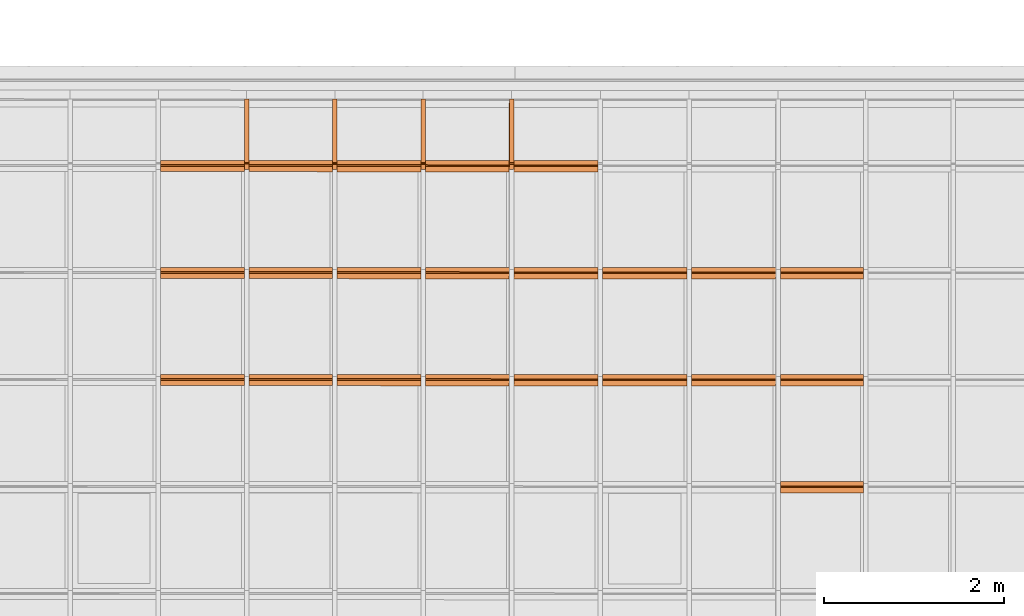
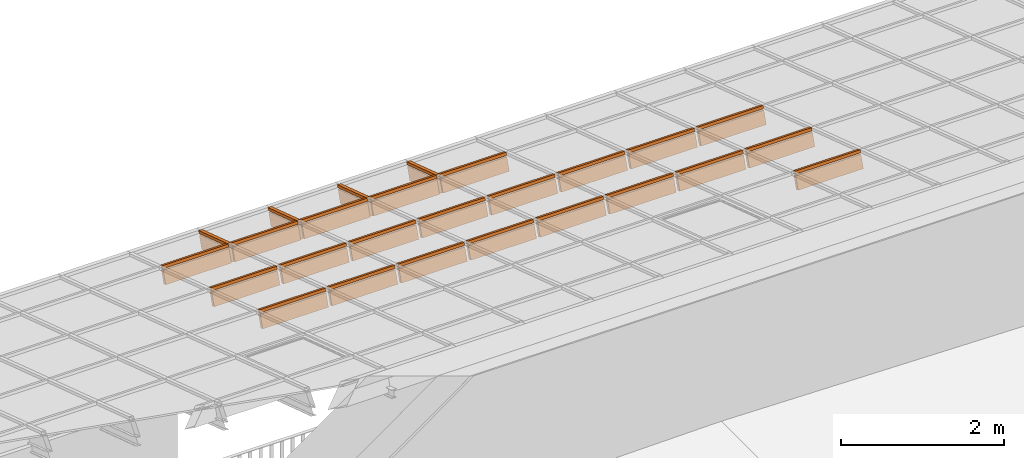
# One storey, part 44 of 47: 26 proxies, 1 element without a shape of its own.
"""IFC2X3 building model written with IfcOpenShell, lengths in millimetres."""

from ifc_helpers import new_model, entity, si_unit, converted_unit, derived_unit, money_unit, direction, frame, origin_with_axes, place, context, subcontext, project, spatial, polyline, outline, extrude, material, material_list, type_object, element, aggregate, save


model = new_model("IFC2X3")

# Units and contexts
model_context = context("Model", 3, precision=1e-05, world=origin_with_axes(), true_north=direction((0.0, 1.0)))
body_context = subcontext(model_context, "Body", "Model", "MODEL_VIEW")
ifc_project = project(units=[si_unit("LENGTHUNIT", "METRE", prefix="MILLI"), si_unit("AREAUNIT", "SQUARE_METRE"), si_unit("VOLUMEUNIT", "CUBIC_METRE"), converted_unit("PLANEANGLEUNIT", "DEGREE", entity("IfcPlaneAngleMeasure", 0.0174532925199), si_unit("PLANEANGLEUNIT", "RADIAN"), dimensions=[0, 0, 0, 0, 0, 0, 0]), si_unit("SOLIDANGLEUNIT", "STERADIAN"), money_unit("EUR"), converted_unit("TIMEUNIT", "Year", entity("IfcTimeMeasure", 31556926.0), si_unit("TIMEUNIT", "SECOND"), dimensions=[0, 0, 1, 0, 0, 0, 0]), si_unit("MASSUNIT", "GRAM", prefix="KILO"), si_unit("THERMODYNAMICTEMPERATUREUNIT", "DEGREE_CELSIUS"), si_unit("LUMINOUSINTENSITYUNIT", "LUMEN"), si_unit("ENERGYUNIT", "JOULE", prefix="MEGA"), derived_unit("THERMALCONDUCTANCEUNIT", [(si_unit("POWERUNIT", "WATT"), 1), (si_unit("LENGTHUNIT", "METRE"), -1), (si_unit("THERMODYNAMICTEMPERATUREUNIT", "KELVIN"), -1)]), derived_unit("SPECIFICHEATCAPACITYUNIT", [(si_unit("ENERGYUNIT", "JOULE"), 1), (si_unit("MASSUNIT", "GRAM", prefix="KILO"), -1), (si_unit("THERMODYNAMICTEMPERATUREUNIT", "KELVIN"), -1)]), derived_unit("MASSDENSITYUNIT", [(si_unit("MASSUNIT", "GRAM", prefix="KILO"), 1), (si_unit("VOLUMEUNIT", "CUBIC_METRE"), -1)])], contexts=[model_context])

# Site, building, storey
site_placement = place(None, origin_with_axes())
site = spatial("IfcSite", under=ifc_project, at=site_placement, Name="Site", CompositionType="ELEMENT")
building_placement = place(site_placement, origin_with_axes())
building = spatial("IfcBuilding", under=site, at=building_placement, Name="Building", CompositionType="ELEMENT")
storey_placement = place(building_placement, frame((0.0, 0.0, 6000.0), z_axis=(0.0, 0.0, 1.0), x_axis=(1.0, 0.0, 0.0)))
storey = spatial("IfcBuildingStorey", under=building, at=storey_placement, Name="KATUSEPLAAN", CompositionType="ELEMENT", Elevation=6000.0)

# Curtain wall, proxies
curtain_wall_type = type_object("IfcCurtainWallType", Name="KK-2", PredefinedType="NOTDEFINED")
curtain_wall_placement = place(storey_placement, frame((71638.1505463, 41358.6055567, 722.550081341), z_axis=(0.0, 0.0, 1.0), x_axis=(1.0, 0.0, 0.0)))
curtain_wall = element("IfcCurtainWall", 1, at=curtain_wall_placement, inside=storey, type_object=curtain_wall_type, Name="Talveaja klaaskatus")
ifc_material = material(Name="Alumiinium (1)")
ifc_material_list = material_list([ifc_material, ifc_material])
building_element_proxy_type_1 = type_object("IfcBuildingElementProxyType", Name="Frame-Mll-202", PredefinedType="NOTDEFINED")
proxy_1_placement = place(curtain_wall_placement, frame((1469.99937703, 5981.3694431, 12.8754077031), z_axis=(0.0, -0.950019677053, 0.312190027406), x_axis=(-0.999999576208, 0.000287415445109, 0.000874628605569)))
proxy_1 = element("IfcBuildingElementProxy", 2, at=proxy_1_placement, type_object=building_element_proxy_type_1, material=ifc_material_list, Name="Alumiinium (1);  Objekti nimi: Frame 22", context=body_context, shape_type="SweptSolid", body=[
    extrude(outline(polyline([(25.0091958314, 9.9769796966), (25.1841179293, 199.976899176), (-24.8158608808, 200.022931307), (-24.9907829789, 10.0230118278), (25.0091958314, 9.9769796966)])), frame((-1.13686837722e-10, 0.0, 49.9999999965), z_axis=(0.0, 0.0, 1.0), x_axis=(0.999999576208, 0.00092064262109, 0.0)), (0.0, 0.0, 1.0), 744.739022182),
    extrude(outline(polyline([(-25.0091958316, -9.97697969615), (-25.0460215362, -49.9769627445), (24.9539572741, -50.0229948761), (24.990782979, -10.0230118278), (-25.0091958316, -9.97697969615)])), frame((-1.13686837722e-10, 0.0, 49.9999999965), z_axis=(0.0, 0.0, 1.0), x_axis=(0.999999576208, 0.00092064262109, 0.0)), (0.0, 0.0, 1.0), 744.739022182),
])
building_element_proxy_type_2 = type_object("IfcBuildingElementProxyType", Name="Frame-Mll-203", PredefinedType="NOTDEFINED")
proxy_2_placement = place(curtain_wall_placement, frame((2449.99896171, 5981.08777596, 12.0182716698), z_axis=(0.0, -0.950019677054, 0.312190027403), x_axis=(-0.999999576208, 0.000287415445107, 0.00087462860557)))
proxy_2 = element("IfcBuildingElementProxy", 3, at=proxy_2_placement, type_object=building_element_proxy_type_2, material=ifc_material_list, Name="Alumiinium (1);  Objekti nimi: Frame 22", context=body_context, shape_type="SweptSolid", body=[
    extrude(outline(polyline([(25.0091958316, 9.9769796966), (25.1841179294, 199.976899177), (-24.8158608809, 200.022931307), (-24.990782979, 10.0230118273), (25.0091958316, 9.9769796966)])), frame((0.0, 0.0, 49.9999999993), z_axis=(0.0, 0.0, 1.0), x_axis=(0.999999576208, 0.00092064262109, 0.0)), (0.0, 0.0, 1.0), 744.739022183),
    extrude(outline(polyline([(-25.0091958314, -9.97697969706), (-25.0460215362, -49.9769627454), (24.9539572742, -50.0229948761), (24.9907829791, -10.0230118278), (-25.0091958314, -9.97697969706)])), frame((0.0, 0.0, 49.9999999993), z_axis=(0.0, 0.0, 1.0), x_axis=(0.999999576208, 0.00092064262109, 0.0)), (0.0, 0.0, 1.0), 744.739022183),
])
building_element_proxy_type_3 = type_object("IfcBuildingElementProxyType", Name="Frame-Mll-204", PredefinedType="NOTDEFINED")
proxy_3_placement = place(curtain_wall_placement, frame((3429.9985464, 5980.80610883, 11.1611356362), z_axis=(0.0, -0.950019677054, 0.312190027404), x_axis=(-0.999999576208, 0.000287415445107, 0.00087462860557)))
proxy_3 = element("IfcBuildingElementProxy", 4, at=proxy_3_placement, type_object=building_element_proxy_type_3, material=ifc_material_list, Name="Alumiinium (1);  Objekti nimi: Frame 22", context=body_context, shape_type="SweptSolid", body=[
    extrude(outline(polyline([(25.0091958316, 9.97697969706), (25.1841179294, 199.976899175), (-24.8158608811, 200.022931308), (-24.9907829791, 10.0230118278), (25.0091958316, 9.97697969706)])), frame((0.0, -4.54747350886e-10, 49.9999999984), z_axis=(0.0, 0.0, 1.0), x_axis=(0.999999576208, 0.00092064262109, 0.0)), (0.0, 0.0, 1.0), 744.739022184),
    extrude(outline(polyline([(-25.0091958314, -9.97697969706), (-25.0460215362, -49.9769627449), (24.9539572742, -50.0229948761), (24.990782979, -10.0230118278), (-25.0091958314, -9.97697969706)])), frame((0.0, 0.0, 49.9999999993), z_axis=(0.0, 0.0, 1.0), x_axis=(0.999999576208, 0.00092064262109, 0.0)), (0.0, 0.0, 1.0), 744.739022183),
])
building_element_proxy_type_4 = type_object("IfcBuildingElementProxyType", Name="Frame-Mll-205", PredefinedType="NOTDEFINED")
proxy_4_placement = place(curtain_wall_placement, frame((4409.99813108, 5980.52444169, 10.3039996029), z_axis=(0.0, -0.950019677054, 0.312190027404), x_axis=(-0.999999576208, 0.000287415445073, 0.000874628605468)))
proxy_4 = element("IfcBuildingElementProxy", 5, at=proxy_4_placement, type_object=building_element_proxy_type_4, material=ifc_material_list, Name="Alumiinium (1);  Objekti nimi: Frame 22", context=body_context, shape_type="SweptSolid", body=[
    extrude(outline(polyline([(25.0091958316, 9.97697969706), (25.1841179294, 199.976899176), (-24.8158608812, 200.022931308), (-24.9907829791, 10.0230118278), (25.0091958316, 9.97697969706)])), frame((0.0, 0.0, 50.0000000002), z_axis=(0.0, 0.0, 1.0), x_axis=(0.999999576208, 0.000920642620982, 0.0)), (0.0, 0.0, 1.0), 744.739022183),
    extrude(outline(polyline([(-25.0091958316, -9.97697969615), (-25.0460215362, -49.9769627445), (24.9539572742, -50.0229948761), (24.9907829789, -10.0230118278), (-25.0091958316, -9.97697969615)])), frame((0.0, 0.0, 50.0000000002), z_axis=(0.0, 0.0, 1.0), x_axis=(0.999999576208, 0.000920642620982, 0.0)), (0.0, 0.0, 1.0), 744.739022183),
])
building_element_proxy_type_5 = type_object("IfcBuildingElementProxyType", Name="Frame-Trs-179", PredefinedType="NOTDEFINED")
proxy_5_placement = place(curtain_wall_placement, frame((489.999792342, 5226.63340104, 261.84214085), z_axis=(0.999999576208, -0.000287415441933, -0.000874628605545), x_axis=(0.0, -0.950019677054, 0.312190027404)))
proxy_5 = element("IfcBuildingElementProxy", 6, at=proxy_5_placement, type_object=building_element_proxy_type_5, material=ifc_material_list, Name="Alumiinium (1);  Objekti nimi: Frame 22", context=body_context, shape_type="SweptSolid", body=[
    extrude(outline(polyline([(26.8723924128, 1.695442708), (86.1885203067, 182.199173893), (38.6875384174, 197.808681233), (-20.6285894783, 17.3049500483), (26.8723924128, 1.695442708)])), frame((0.0, 0.0, 24.9999999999), z_axis=(0.0, 0.0, 1.0), x_axis=(0.950019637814, 0.312190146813, 0.0)), (0.0, 0.0, 1.0), 930.000000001),
    extrude(outline(polyline([(-26.8723924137, -1.69544270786), (-39.3599982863, -39.6962282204), (8.14098360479, -55.3057355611), (20.6285894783, -17.3049500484), (-26.8723924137, -1.69544270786)])), frame((0.0, 0.0, 24.9999999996), z_axis=(0.0, 0.0, 1.0), x_axis=(0.950019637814, 0.312190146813, 0.0)), (0.0, 0.0, 1.0), 930.000000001),
])
building_element_proxy_type_6 = type_object("IfcBuildingElementProxyType", Name="Frame-Trs-180", PredefinedType="NOTDEFINED")
proxy_6_placement = place(curtain_wall_placement, frame((1469.99937703, 5226.35173391, 260.985004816), z_axis=(0.999999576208, -0.000287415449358, -0.000874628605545), x_axis=(0.0, -0.950019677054, 0.312190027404)))
proxy_6 = element("IfcBuildingElementProxy", 7, at=proxy_6_placement, type_object=building_element_proxy_type_6, material=ifc_material_list, Name="Alumiinium (1);  Objekti nimi: Frame 22", context=body_context, shape_type="SweptSolid", body=[
    extrude(outline(polyline([(26.8723924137, 1.69544270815), (86.1885203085, 182.199173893), (38.6875384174, 197.808681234), (-20.6285894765, 17.3049500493), (26.8723924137, 1.69544270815)])), frame((9.09494701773e-10, 0.0, 24.9999999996), z_axis=(0.0, 0.0, 1.0), x_axis=(0.950019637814, 0.312190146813, 0.0)), (0.0, 0.0, 1.0), 930.0),
    extrude(outline(polyline([(-26.8723924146, -1.69544270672), (-39.3599982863, -39.6962282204), (8.1409836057, -55.3057355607), (20.6285894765, -17.3049500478), (-26.8723924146, -1.69544270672)])), frame((9.09494701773e-10, 0.0, 24.9999999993), z_axis=(0.0, 0.0, 1.0), x_axis=(0.950019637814, 0.312190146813, 0.0)), (0.0, 0.0, 1.0), 930.000000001),
])
building_element_proxy_type_7 = type_object("IfcBuildingElementProxyType", Name="Frame-Trs-181", PredefinedType="NOTDEFINED")
proxy_7_placement = place(curtain_wall_placement, frame((2449.99896171, 5226.07006677, 260.127868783), z_axis=(0.999999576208, -0.000287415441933, -0.000874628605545), x_axis=(0.0, -0.950019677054, 0.312190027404)))
proxy_7 = element("IfcBuildingElementProxy", 8, at=proxy_7_placement, type_object=building_element_proxy_type_7, material=ifc_material_list, Name="Alumiinium (1);  Objekti nimi: Frame 22", context=body_context, shape_type="SweptSolid", body=[
    extrude(outline(polyline([(26.8723924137, 1.69544270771), (86.1885203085, 182.199173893), (38.6875384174, 197.808681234), (-20.6285894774, 17.3049500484), (26.8723924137, 1.69544270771)])), frame((0.0, 0.0, 24.9999999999), z_axis=(0.0, 0.0, 1.0), x_axis=(0.950019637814, 0.312190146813, 0.0)), (0.0, 0.0, 1.0), 930.0),
    extrude(outline(polyline([(-26.8723924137, -1.69544270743), (-39.3599982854, -39.6962282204), (8.14098360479, -55.3057355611), (20.6285894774, -17.3049500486), (-26.8723924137, -1.69544270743)])), frame((0.0, 0.0, 24.9999999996), z_axis=(0.0, 0.0, 1.0), x_axis=(0.950019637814, 0.312190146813, 0.0)), (0.0, 0.0, 1.0), 930.0),
])
building_element_proxy_type_8 = type_object("IfcBuildingElementProxyType", Name="Frame-Trs-182", PredefinedType="NOTDEFINED")
proxy_8_placement = place(curtain_wall_placement, frame((3429.9985464, 5225.78839964, 259.27073275), z_axis=(0.999999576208, -0.000287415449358, -0.000874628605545), x_axis=(0.0, -0.950019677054, 0.312190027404)))
proxy_8 = element("IfcBuildingElementProxy", 9, at=proxy_8_placement, type_object=building_element_proxy_type_8, material=ifc_material_list, Name="Alumiinium (1);  Objekti nimi: Frame 22", context=body_context, shape_type="SweptSolid", body=[
    extrude(outline(polyline([(26.8723924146, 1.69544270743), (86.1885203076, 182.199173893), (38.6875384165, 197.808681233), (-20.6285894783, 17.304950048), (26.8723924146, 1.69544270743)])), frame((0.0, 0.0, 24.9999999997), z_axis=(0.0, 0.0, 1.0), x_axis=(0.950019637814, 0.312190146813, 0.0)), (0.0, 0.0, 1.0), 930.0),
    extrude(outline(polyline([(-26.8723924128, -1.69544270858), (-39.3599982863, -39.6962282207), (8.14098360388, -55.3057355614), (20.6285894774, -17.3049500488), (-26.8723924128, -1.69544270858)])), frame((0.0, 0.0, 24.9999999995), z_axis=(0.0, 0.0, 1.0), x_axis=(0.950019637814, 0.312190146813, 0.0)), (0.0, 0.0, 1.0), 930.000000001),
])
building_element_proxy_type_9 = type_object("IfcBuildingElementProxyType", Name="Frame-Trs-183", PredefinedType="NOTDEFINED")
proxy_9_placement = place(curtain_wall_placement, frame((4409.99813108, 5225.5067325, 258.413596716), z_axis=(0.999999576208, -0.0002874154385, -0.000874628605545), x_axis=(0.0, -0.950019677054, 0.312190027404)))
proxy_9 = element("IfcBuildingElementProxy", 10, at=proxy_9_placement, type_object=building_element_proxy_type_9, material=ifc_material_list, Name="Alumiinium (1);  Objekti nimi: Frame 22", context=body_context, shape_type="SweptSolid", body=[
    extrude(outline(polyline([(26.8723924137, 1.69544270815), (86.1885203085, 182.199173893), (38.6875384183, 197.808681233), (-20.6285894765, 17.3049500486), (26.8723924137, 1.69544270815)])), frame((-9.09494701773e-10, 0.0, 25.0000000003), z_axis=(0.0, 0.0, 1.0), x_axis=(0.950019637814, 0.312190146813, 0.0)), (0.0, 0.0, 1.0), 936.0),
    extrude(outline(polyline([(-26.8723924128, -1.69544270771), (-39.3599982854, -39.6962282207), (8.1409836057, -55.3057355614), (20.6285894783, -17.3049500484), (-26.8723924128, -1.69544270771)])), frame((-9.09494701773e-10, 0.0, 25.0), z_axis=(0.0, 0.0, 1.0), x_axis=(0.950019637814, 0.312190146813, 0.0)), (0.0, 0.0, 1.0), 936.000000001),
])
building_element_proxy_type_10 = type_object("IfcBuildingElementProxyType", Name="Frame-Trs-203", PredefinedType="NOTDEFINED")
proxy_10_placement = place(curtain_wall_placement, frame((489.999792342, 4039.10880473, 652.079675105), z_axis=(0.999999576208, -0.000287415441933, -0.000874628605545), x_axis=(0.0, -0.950019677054, 0.312190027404)))
proxy_10 = element("IfcBuildingElementProxy", 11, at=proxy_10_placement, type_object=building_element_proxy_type_10, material=ifc_material_list, Name="Alumiinium (1);  Objekti nimi: Frame 22", context=body_context, shape_type="SweptSolid", body=[
    extrude(outline(polyline([(26.8723924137, 1.69544270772), (86.1885203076, 182.199173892), (38.6875384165, 197.808681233), (-20.6285894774, 17.3049500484), (26.8723924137, 1.69544270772)])), frame((9.09494701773e-10, 0.0, 24.9999999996), z_axis=(0.0, 0.0, 1.0), x_axis=(0.950019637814, 0.312190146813, 0.0)), (0.0, 0.0, 1.0), 930.000000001),
    extrude(outline(polyline([(-26.8723924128, -1.69544270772), (-39.3599982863, -39.6962282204), (8.14098360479, -55.3057355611), (20.6285894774, -17.3049500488), (-26.8723924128, -1.69544270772)])), frame((9.09494701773e-10, 0.0, 24.9999999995), z_axis=(0.0, 0.0, 1.0), x_axis=(0.950019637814, 0.312190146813, 0.0)), (0.0, 0.0, 1.0), 930.000000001),
])
building_element_proxy_type_11 = type_object("IfcBuildingElementProxyType", Name="Frame-Trs-258", PredefinedType="NOTDEFINED")
proxy_11_placement = place(curtain_wall_placement, frame((489.999792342, 2851.58420841, 1042.31720936), z_axis=(0.999999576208, -0.000287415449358, -0.000874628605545), x_axis=(0.0, -0.950019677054, 0.312190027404)))
proxy_11 = element("IfcBuildingElementProxy", 12, at=proxy_11_placement, type_object=building_element_proxy_type_11, material=ifc_material_list, Name="Alumiinium (1);  Objekti nimi: Frame 22", context=body_context, shape_type="SweptSolid", body=[
    extrude(outline(polyline([(26.8723924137, 1.69544270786), (86.1885203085, 182.199173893), (38.6875384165, 197.808681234), (-20.6285894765, 17.304950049), (26.8723924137, 1.69544270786)])), frame((0.0, 0.0, 25.0000000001), z_axis=(0.0, 0.0, 1.0), x_axis=(0.950019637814, 0.312190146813, 0.0)), (0.0, 0.0, 1.0), 930.000000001),
    extrude(outline(polyline([(-26.8723924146, -1.695442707), (-39.3599982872, -39.6962282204), (8.14098360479, -55.3057355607), (20.6285894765, -17.3049500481), (-26.8723924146, -1.695442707)])), frame((0.0, 0.0, 24.9999999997), z_axis=(0.0, 0.0, 1.0), x_axis=(0.950019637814, 0.312190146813, 0.0)), (0.0, 0.0, 1.0), 930.000000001),
])
building_element_proxy_type_12 = type_object("IfcBuildingElementProxyType", Name="Frame-Trs-204", PredefinedType="NOTDEFINED")
proxy_12_placement = place(curtain_wall_placement, frame((1469.99937703, 4038.82713759, 651.222539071), z_axis=(0.999999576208, -0.000287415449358, -0.000874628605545), x_axis=(0.0, -0.950019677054, 0.312190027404)))
proxy_12 = element("IfcBuildingElementProxy", 13, at=proxy_12_placement, type_object=building_element_proxy_type_12, material=ifc_material_list, Name="Alumiinium (1);  Objekti nimi: Frame 22", context=body_context, shape_type="SweptSolid", body=[
    extrude(outline(polyline([(26.8723924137, 1.69544270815), (86.1885203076, 182.199173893), (38.6875384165, 197.808681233), (-20.6285894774, 17.3049500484), (26.8723924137, 1.69544270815)])), frame((9.09494701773e-10, 0.0, 24.9999999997), z_axis=(0.0, 0.0, 1.0), x_axis=(0.950019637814, 0.312190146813, 0.0)), (0.0, 0.0, 1.0), 930.0),
    extrude(outline(polyline([(-26.8723924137, -1.69544270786), (-39.3599982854, -39.6962282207), (8.1409836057, -55.3057355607), (20.6285894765, -17.3049500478), (-26.8723924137, -1.69544270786)])), frame((9.09494701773e-10, 0.0, 24.9999999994), z_axis=(0.0, 0.0, 1.0), x_axis=(0.950019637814, 0.312190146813, 0.0)), (0.0, 0.0, 1.0), 930.000000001),
])
building_element_proxy_type_13 = type_object("IfcBuildingElementProxyType", Name="Frame-Trs-257", PredefinedType="NOTDEFINED")
proxy_13_placement = place(curtain_wall_placement, frame((1469.99937703, 2851.30254127, 1041.46007333), z_axis=(0.999999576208, -0.000287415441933, -0.000874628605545), x_axis=(0.0, -0.950019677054, 0.312190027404)))
proxy_13 = element("IfcBuildingElementProxy", 14, at=proxy_13_placement, type_object=building_element_proxy_type_13, material=ifc_material_list, Name="Alumiinium (1);  Objekti nimi: Frame 22", context=body_context, shape_type="SweptSolid", body=[
    extrude(outline(polyline([(26.8723924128, 1.69544270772), (86.1885203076, 182.199173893), (38.6875384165, 197.808681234), (-20.6285894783, 17.3049500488), (26.8723924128, 1.69544270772)])), frame((0.0, 4.54747350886e-10, 25.0000000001), z_axis=(0.0, 0.0, 1.0), x_axis=(0.950019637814, 0.312190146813, 0.0)), (0.0, 0.0, 1.0), 930.0),
    extrude(outline(polyline([(-26.8723924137, -1.69544270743), (-39.3599982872, -39.6962282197), (8.14098360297, -55.3057355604), (20.6285894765, -17.3049500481), (-26.8723924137, -1.69544270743)])), frame((0.0, 4.54747350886e-10, 24.9999999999), z_axis=(0.0, 0.0, 1.0), x_axis=(0.950019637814, 0.312190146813, 0.0)), (0.0, 0.0, 1.0), 930.0),
])
building_element_proxy_type_14 = type_object("IfcBuildingElementProxyType", Name="Frame-Trs-205", PredefinedType="NOTDEFINED")
proxy_14_placement = place(curtain_wall_placement, frame((2449.99896171, 4038.54547045, 650.365403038), z_axis=(0.999999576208, -0.000287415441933, -0.000874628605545), x_axis=(0.0, -0.950019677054, 0.312190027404)))
proxy_14 = element("IfcBuildingElementProxy", 15, at=proxy_14_placement, type_object=building_element_proxy_type_14, material=ifc_material_list, Name="Alumiinium (1);  Objekti nimi: Frame 22", context=body_context, shape_type="SweptSolid", body=[
    extrude(outline(polyline([(26.8723924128, 1.69544270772), (86.1885203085, 182.199173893), (38.6875384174, 197.808681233), (-20.6285894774, 17.3049500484), (26.8723924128, 1.69544270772)])), frame((0.0, 0.0, 24.9999999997), z_axis=(0.0, 0.0, 1.0), x_axis=(0.950019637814, 0.312190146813, 0.0)), (0.0, 0.0, 1.0), 930.0),
    extrude(outline(polyline([(-26.8723924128, -1.69544270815), (-39.3599982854, -39.6962282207), (8.1409836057, -55.305735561), (20.6285894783, -17.3049500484), (-26.8723924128, -1.69544270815)])), frame((0.0, 0.0, 24.9999999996), z_axis=(0.0, 0.0, 1.0), x_axis=(0.950019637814, 0.312190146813, 0.0)), (0.0, 0.0, 1.0), 930.000000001),
])
building_element_proxy_type_15 = type_object("IfcBuildingElementProxyType", Name="Frame-Trs-256", PredefinedType="NOTDEFINED")
proxy_15_placement = place(curtain_wall_placement, frame((2449.99896171, 2851.02087414, 1040.60293729), z_axis=(0.999999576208, -0.000287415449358, -0.000874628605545), x_axis=(0.0, -0.950019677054, 0.312190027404)))
proxy_15 = element("IfcBuildingElementProxy", 16, at=proxy_15_placement, type_object=building_element_proxy_type_15, material=ifc_material_list, Name="Alumiinium (1);  Objekti nimi: Frame 22", context=body_context, shape_type="SweptSolid", body=[
    extrude(outline(polyline([(26.8723924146, 1.69544270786), (86.1885203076, 182.199173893), (38.6875384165, 197.808681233), (-20.6285894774, 17.3049500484), (26.8723924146, 1.69544270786)])), frame((0.0, 0.0, 24.9999999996), z_axis=(0.0, 0.0, 1.0), x_axis=(0.950019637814, 0.312190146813, 0.0)), (0.0, 0.0, 1.0), 930.0),
    extrude(outline(polyline([(-26.8723924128, -1.69544270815), (-39.3599982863, -39.6962282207), (8.14098360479, -55.3057355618), (20.6285894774, -17.3049500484), (-26.8723924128, -1.69544270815)])), frame((0.0, 0.0, 24.9999999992), z_axis=(0.0, 0.0, 1.0), x_axis=(0.950019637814, 0.312190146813, 0.0)), (0.0, 0.0, 1.0), 930.000000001),
])
building_element_proxy_type_16 = type_object("IfcBuildingElementProxyType", Name="Frame-Trs-206", PredefinedType="NOTDEFINED")
proxy_16_placement = place(curtain_wall_placement, frame((3429.9985464, 4038.26380332, 649.508267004), z_axis=(0.999999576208, -0.000287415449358, -0.000874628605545), x_axis=(0.0, -0.950019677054, 0.312190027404)))
proxy_16 = element("IfcBuildingElementProxy", 17, at=proxy_16_placement, type_object=building_element_proxy_type_16, material=ifc_material_list, Name="Alumiinium (1);  Objekti nimi: Frame 22", context=body_context, shape_type="SweptSolid", body=[
    extrude(outline(polyline([(26.8723924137, 1.69544270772), (86.1885203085, 182.199173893), (38.6875384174, 197.808681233), (-20.6285894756, 17.3049500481), (26.8723924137, 1.69544270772)])), frame((-9.09494701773e-10, 0.0, 24.9999999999), z_axis=(0.0, 0.0, 1.0), x_axis=(0.950019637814, 0.312190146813, 0.0)), (0.0, 0.0, 1.0), 930.0),
    extrude(outline(polyline([(-26.8723924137, -1.69544270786), (-39.3599982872, -39.6962282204), (8.14098360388, -55.3057355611), (20.6285894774, -17.304950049), (-26.8723924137, -1.69544270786)])), frame((-9.09494701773e-10, 0.0, 24.9999999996), z_axis=(0.0, 0.0, 1.0), x_axis=(0.950019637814, 0.312190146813, 0.0)), (0.0, 0.0, 1.0), 930.000000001),
])
building_element_proxy_type_17 = type_object("IfcBuildingElementProxyType", Name="Frame-Trs-255", PredefinedType="NOTDEFINED")
proxy_17_placement = place(curtain_wall_placement, frame((3429.9985464, 2850.739207, 1039.74580126), z_axis=(0.999999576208, -0.000287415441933, -0.000874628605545), x_axis=(0.0, -0.950019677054, 0.312190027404)))
proxy_17 = element("IfcBuildingElementProxy", 18, at=proxy_17_placement, type_object=building_element_proxy_type_17, material=ifc_material_list, Name="Alumiinium (1);  Objekti nimi: Frame 22", context=body_context, shape_type="SweptSolid", body=[
    extrude(outline(polyline([(26.8723924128, 1.69544270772), (86.1885203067, 182.199173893), (38.6875384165, 197.808681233), (-20.6285894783, 17.304950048), (26.8723924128, 1.69544270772)])), frame((9.09494701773e-10, 0.0, 24.9999999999), z_axis=(0.0, 0.0, 1.0), x_axis=(0.950019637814, 0.312190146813, 0.0)), (0.0, 0.0, 1.0), 930.0),
    extrude(outline(polyline([(-26.8723924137, -1.69544270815), (-39.3599982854, -39.6962282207), (8.1409836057, -55.3057355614), (20.6285894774, -17.3049500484), (-26.8723924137, -1.69544270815)])), frame((9.09494701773e-10, 0.0, 24.9999999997), z_axis=(0.0, 0.0, 1.0), x_axis=(0.950019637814, 0.312190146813, 0.0)), (0.0, 0.0, 1.0), 930.0),
])
building_element_proxy_type_18 = type_object("IfcBuildingElementProxyType", Name="Frame-Trs-207", PredefinedType="NOTDEFINED")
proxy_18_placement = place(curtain_wall_placement, frame((4409.99813108, 4037.98213618, 648.651130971), z_axis=(0.999999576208, -0.000287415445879, -0.000874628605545), x_axis=(0.0, -0.950019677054, 0.312190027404)))
proxy_18 = element("IfcBuildingElementProxy", 19, at=proxy_18_placement, type_object=building_element_proxy_type_18, material=ifc_material_list, Name="Alumiinium (1);  Objekti nimi: Frame 22", context=body_context, shape_type="SweptSolid", body=[
    extrude(outline(polyline([(26.8723924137, 1.695442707), (86.1885203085, 182.199173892), (38.6875384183, 197.808681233), (-20.6285894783, 17.3049500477), (26.8723924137, 1.695442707)])), frame((9.09494701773e-10, 0.0, 25.0), z_axis=(0.0, 0.0, 1.0), x_axis=(0.950019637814, 0.312190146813, 0.0)), (0.0, 0.0, 1.0), 936.0),
    extrude(outline(polyline([(-26.8723924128, -1.69544270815), (-39.3599982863, -39.6962282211), (8.14098360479, -55.3057355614), (20.6285894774, -17.304950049), (-26.8723924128, -1.69544270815)])), frame((9.09494701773e-10, 0.0, 25.0), z_axis=(0.0, 0.0, 1.0), x_axis=(0.950019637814, 0.312190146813, 0.0)), (0.0, 0.0, 1.0), 936.0),
])
building_element_proxy_type_19 = type_object("IfcBuildingElementProxyType", Name="Frame-Trs-254", PredefinedType="NOTDEFINED")
proxy_19_placement = place(curtain_wall_placement, frame((4409.99813108, 2850.45753986, 1038.88866523), z_axis=(0.999999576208, -0.000287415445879, -0.000874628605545), x_axis=(0.0, -0.950019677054, 0.312190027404)))
proxy_19 = element("IfcBuildingElementProxy", 20, at=proxy_19_placement, type_object=building_element_proxy_type_19, material=ifc_material_list, Name="Alumiinium (1);  Objekti nimi: Frame 22", context=body_context, shape_type="SweptSolid", body=[
    extrude(outline(polyline([(26.8723924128, 1.69544270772), (86.1885203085, 182.199173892), (38.6875384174, 197.808681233), (-20.6285894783, 17.3049500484), (26.8723924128, 1.69544270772)])), frame((0.0, 0.0, 24.9999999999), z_axis=(0.0, 0.0, 1.0), x_axis=(0.950019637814, 0.312190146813, 0.0)), (0.0, 0.0, 1.0), 936.0),
    extrude(outline(polyline([(-26.8723924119, -1.695442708), (-39.3599982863, -39.6962282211), (8.14098360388, -55.3057355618), (20.6285894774, -17.3049500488), (-26.8723924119, -1.695442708)])), frame((0.0, 0.0, 24.9999999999), z_axis=(0.0, 0.0, 1.0), x_axis=(0.950019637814, 0.312190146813, 0.0)), (0.0, 0.0, 1.0), 936.0),
])
building_element_proxy_type_20 = type_object("IfcBuildingElementProxyType", Name="Frame-Trs-208", PredefinedType="NOTDEFINED")
proxy_20_placement = place(curtain_wall_placement, frame((5395.99771322, 4037.69874455, 647.788747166), z_axis=(0.999999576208, -0.000287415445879, -0.000874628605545), x_axis=(0.0, -0.950019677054, 0.312190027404)))
proxy_20 = element("IfcBuildingElementProxy", 21, at=proxy_20_placement, type_object=building_element_proxy_type_20, material=ifc_material_list, Name="Alumiinium (1);  Objekti nimi: Frame 22", context=body_context, shape_type="SweptSolid", body=[
    extrude(outline(polyline([(26.8723924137, 1.69544270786), (86.1885203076, 182.199173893), (38.6875384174, 197.808681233), (-20.6285894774, 17.3049500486), (26.8723924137, 1.69544270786)])), frame((9.09494701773e-10, 0.0, 25.0000000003), z_axis=(0.0, 0.0, 1.0), x_axis=(0.950019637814, 0.312190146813, 0.0)), (0.0, 0.0, 1.0), 936.0),
    extrude(outline(polyline([(-26.8723924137, -1.69544270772), (-39.3599982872, -39.6962282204), (8.14098360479, -55.3057355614), (20.6285894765, -17.3049500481), (-26.8723924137, -1.69544270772)])), frame((9.09494701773e-10, 0.0, 25.0000000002), z_axis=(0.0, 0.0, 1.0), x_axis=(0.950019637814, 0.312190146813, 0.0)), (0.0, 0.0, 1.0), 936.0),
])
building_element_proxy_type_21 = type_object("IfcBuildingElementProxyType", Name="Frame-Trs-253", PredefinedType="NOTDEFINED")
proxy_21_placement = place(curtain_wall_placement, frame((5395.99771322, 2850.17414823, 1038.02628142), z_axis=(0.999999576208, -0.000287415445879, -0.000874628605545), x_axis=(0.0, -0.950019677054, 0.312190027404)))
proxy_21 = element("IfcBuildingElementProxy", 22, at=proxy_21_placement, type_object=building_element_proxy_type_21, material=ifc_material_list, Name="Alumiinium (1);  Objekti nimi: Frame 22", context=body_context, shape_type="SweptSolid", body=[
    extrude(outline(polyline([(26.8723924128, 1.69544270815), (86.1885203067, 182.199173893), (38.6875384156, 197.808681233), (-20.6285894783, 17.3049500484), (26.8723924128, 1.69544270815)])), frame((0.0, 0.0, 24.9999999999), z_axis=(0.0, 0.0, 1.0), x_axis=(0.950019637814, 0.312190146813, 0.0)), (0.0, 0.0, 1.0), 936.0),
    extrude(outline(polyline([(-26.8723924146, -1.69544270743), (-39.3599982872, -39.6962282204), (8.14098360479, -55.3057355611), (20.6285894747, -17.3049500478), (-26.8723924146, -1.69544270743)])), frame((0.0, 0.0, 24.9999999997), z_axis=(0.0, 0.0, 1.0), x_axis=(0.950019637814, 0.312190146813, 0.0)), (0.0, 0.0, 1.0), 936.0),
])
building_element_proxy_type_22 = type_object("IfcBuildingElementProxyType", Name="Frame-Trs-209", PredefinedType="NOTDEFINED")
proxy_22_placement = place(curtain_wall_placement, frame((6381.99729536, 4037.41535292, 646.926363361), z_axis=(0.999999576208, -0.0002874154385, -0.000874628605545), x_axis=(0.0, -0.950019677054, 0.312190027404)))
proxy_22 = element("IfcBuildingElementProxy", 23, at=proxy_22_placement, type_object=building_element_proxy_type_22, material=ifc_material_list, Name="Alumiinium (1);  Objekti nimi: Frame 22", context=body_context, shape_type="SweptSolid", body=[
    extrude(outline(polyline([(26.8723924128, 1.69544270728), (86.1885203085, 182.199173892), (38.6875384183, 197.808681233), (-20.6285894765, 17.3049500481), (26.8723924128, 1.69544270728)])), frame((0.0, -4.54747350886e-10, 25.0000000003), z_axis=(0.0, 0.0, 1.0), x_axis=(0.950019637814, 0.312190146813, 0.0)), (0.0, 0.0, 1.0), 936.0),
    extrude(outline(polyline([(-26.8723924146, -1.69544270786), (-39.3599982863, -39.6962282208), (8.14098360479, -55.3057355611), (20.6285894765, -17.3049500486), (-26.8723924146, -1.69544270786)])), frame((0.0, -4.54747350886e-10, 25.0), z_axis=(0.0, 0.0, 1.0), x_axis=(0.950019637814, 0.312190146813, 0.0)), (0.0, 0.0, 1.0), 936.000000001),
])
building_element_proxy_type_23 = type_object("IfcBuildingElementProxyType", Name="Frame-Trs-252", PredefinedType="NOTDEFINED")
proxy_23_placement = place(curtain_wall_placement, frame((6381.99729536, 2849.8907566, 1037.16389762), z_axis=(0.999999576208, -0.0002874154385, -0.000874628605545), x_axis=(0.0, -0.950019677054, 0.312190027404)))
proxy_23 = element("IfcBuildingElementProxy", 24, at=proxy_23_placement, type_object=building_element_proxy_type_23, material=ifc_material_list, Name="Alumiinium (1);  Objekti nimi: Frame 22", context=body_context, shape_type="SweptSolid", body=[
    extrude(outline(polyline([(26.8723924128, 1.69544270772), (86.1885203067, 182.199173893), (38.6875384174, 197.808681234), (-20.6285894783, 17.3049500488), (26.8723924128, 1.69544270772)])), frame((-9.09494701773e-10, 0.0, 24.9999999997), z_axis=(0.0, 0.0, 1.0), x_axis=(0.950019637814, 0.312190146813, 0.0)), (0.0, 0.0, 1.0), 936.0),
    extrude(outline(polyline([(-26.8723924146, -1.69544270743), (-39.3599982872, -39.6962282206), (8.14098360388, -55.3057355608), (20.6285894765, -17.3049500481), (-26.8723924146, -1.69544270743)])), frame((-9.09494701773e-10, 0.0, 24.9999999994), z_axis=(0.0, 0.0, 1.0), x_axis=(0.950019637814, 0.312190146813, 0.0)), (0.0, 0.0, 1.0), 936.000000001),
])
building_element_proxy_type_24 = type_object("IfcBuildingElementProxyType", Name="Frame-Trs-210", PredefinedType="NOTDEFINED")
proxy_24_placement = place(curtain_wall_placement, frame((7367.9968775, 4037.1319613, 646.063979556), z_axis=(0.999999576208, -0.000287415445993, -0.000874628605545), x_axis=(0.0, -0.950019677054, 0.312190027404)))
proxy_24 = element("IfcBuildingElementProxy", 25, at=proxy_24_placement, type_object=building_element_proxy_type_24, material=ifc_material_list, Name="Alumiinium (1);  Objekti nimi: Frame 22", context=body_context, shape_type="SweptSolid", body=[
    extrude(outline(polyline([(26.8723924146, 1.69544270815), (86.1885203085, 182.199173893), (38.6875384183, 197.808681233), (-20.6285894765, 17.3049500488), (26.8723924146, 1.69544270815)])), frame((9.09494701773e-10, 4.54747350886e-10, 25.0000000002), z_axis=(0.0, 0.0, 1.0), x_axis=(0.950019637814, 0.312190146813, 0.0)), (0.0, 0.0, 1.0), 923.0),
    extrude(outline(polyline([(-26.8723924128, -1.69544270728), (-39.3599982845, -39.6962282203), (8.1409836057, -55.305735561), (20.6285894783, -17.3049500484), (-26.8723924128, -1.69544270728)])), frame((9.09494701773e-10, 4.54747350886e-10, 25.0000000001), z_axis=(0.0, 0.0, 1.0), x_axis=(0.950019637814, 0.312190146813, 0.0)), (0.0, 0.0, 1.0), 923.0),
])
building_element_proxy_type_25 = type_object("IfcBuildingElementProxyType", Name="Frame-Trs-251", PredefinedType="NOTDEFINED")
proxy_25_placement = place(curtain_wall_placement, frame((7367.9968775, 2849.60736498, 1036.30151381), z_axis=(0.999999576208, -0.000287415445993, -0.000874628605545), x_axis=(0.0, -0.950019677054, 0.312190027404)))
proxy_25 = element("IfcBuildingElementProxy", 26, at=proxy_25_placement, type_object=building_element_proxy_type_25, material=ifc_material_list, Name="Alumiinium (1);  Objekti nimi: Frame 22", context=body_context, shape_type="SweptSolid", body=[
    extrude(outline(polyline([(26.8723924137, 1.69544270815), (86.1885203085, 182.199173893), (38.6875384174, 197.808681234), (-20.6285894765, 17.3049500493), (26.8723924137, 1.69544270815)])), frame((9.09494701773e-10, 4.54747350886e-10, 25.0000000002), z_axis=(0.0, 0.0, 1.0), x_axis=(0.950019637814, 0.312190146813, 0.0)), (0.0, 0.0, 1.0), 923.0),
    extrude(outline(polyline([(-26.8723924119, -1.69544270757), (-39.3599982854, -39.6962282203), (8.1409836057, -55.3057355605), (20.6285894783, -17.3049500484), (-26.8723924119, -1.69544270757)])), frame((9.09494701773e-10, 4.54747350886e-10, 25.0000000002), z_axis=(0.0, 0.0, 1.0), x_axis=(0.950019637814, 0.312190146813, 0.0)), (0.0, 0.0, 1.0), 923.0),
])
building_element_proxy_type_26 = type_object("IfcBuildingElementProxyType", Name="Frame-Trs-762", PredefinedType="NOTDEFINED")
proxy_26_placement = place(curtain_wall_placement, frame((7367.9968775, 1662.08276866, 1426.53904807), z_axis=(0.999999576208, -0.000287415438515, -0.000874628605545), x_axis=(0.0, -0.950019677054, 0.312190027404)))
proxy_26 = element("IfcBuildingElementProxy", 27, at=proxy_26_placement, type_object=building_element_proxy_type_26, material=ifc_material_list, Name="Alumiinium (1);  Objekti nimi: Frame 22", context=body_context, shape_type="SweptSolid", body=[
    extrude(outline(polyline([(26.8723924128, 1.69544270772), (86.1885203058, 182.199173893), (38.6875384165, 197.808681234), (-20.6285894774, 17.3049500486), (26.8723924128, 1.69544270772)])), frame((-9.09494701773e-10, 0.0, 25.0000000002), z_axis=(0.0, 0.0, 1.0), x_axis=(0.950019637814, 0.312190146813, 0.0)), (0.0, 0.0, 1.0), 923.0),
    extrude(outline(polyline([(-26.8723924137, -1.69544270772), (-39.3599982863, -39.6962282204), (8.14098360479, -55.3057355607), (20.6285894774, -17.3049500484), (-26.8723924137, -1.69544270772)])), frame((-9.09494701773e-10, 0.0, 24.9999999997), z_axis=(0.0, 0.0, 1.0), x_axis=(0.950019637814, 0.312190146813, 0.0)), (0.0, 0.0, 1.0), 923.000000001),
])
aggregate(curtain_wall, [proxy_1, proxy_2, proxy_3, proxy_4, proxy_5, proxy_6, proxy_7, proxy_8, proxy_9, proxy_10, proxy_11, proxy_12, proxy_13, proxy_14, proxy_15, proxy_16, proxy_17, proxy_18, proxy_19, proxy_20, proxy_21, proxy_22, proxy_23, proxy_24, proxy_25, proxy_26])

save(model, "model.ifc")
